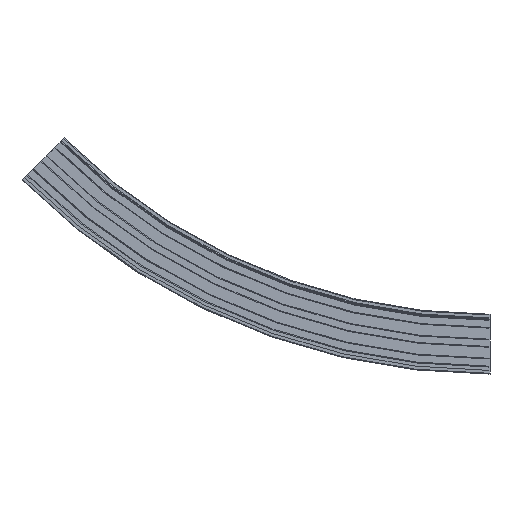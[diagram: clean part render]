
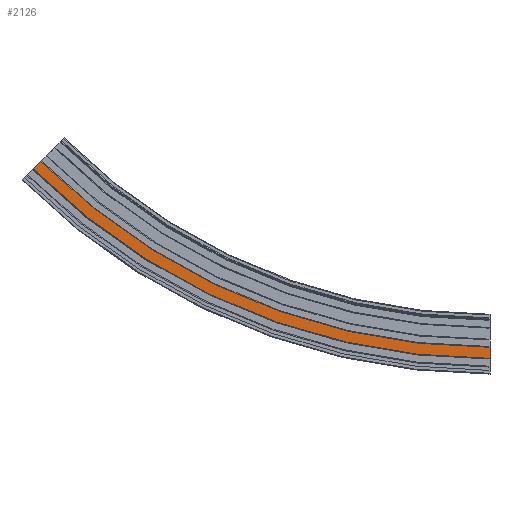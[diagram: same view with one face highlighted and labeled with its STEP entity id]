
A CAD part, left-side view. The second image highlights one B-rep face of the part: STEP entity #2126.
In plain terms, the highlighted planar face has unit normal (-1, 0, 0).
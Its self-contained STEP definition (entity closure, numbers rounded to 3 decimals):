
#214=CIRCLE('',#2314,865.5);
#215=CIRCLE('',#2316,880.5);
#325=FACE_OUTER_BOUND('',#443,.T.);
#443=EDGE_LOOP('',(#1725,#1726,#1727,#1728));
#593=LINE('',#8156,#771);
#594=LINE('',#8158,#772);
#771=VECTOR('',#2772,10.);
#772=VECTOR('',#2773,10.);
#983=VERTEX_POINT('',#8149);
#984=VERTEX_POINT('',#8151);
#985=VERTEX_POINT('',#8155);
#986=VERTEX_POINT('',#8157);
#1271=EDGE_CURVE('',#983,#984,#214,.T.);
#1272=EDGE_CURVE('',#985,#983,#593,.T.);
#1273=EDGE_CURVE('',#986,#984,#594,.T.);
#1274=EDGE_CURVE('',#985,#986,#215,.T.);
#1725=ORIENTED_EDGE('',*,*,#1272,.T.);
#1726=ORIENTED_EDGE('',*,*,#1271,.T.);
#1727=ORIENTED_EDGE('',*,*,#1273,.F.);
#1728=ORIENTED_EDGE('',*,*,#1274,.F.);
#2030=PLANE('',#2315);
#2126=ADVANCED_FACE('',(#325),#2030,.T.);
#2314=AXIS2_PLACEMENT_3D('',#8153,#2768,#2769);
#2315=AXIS2_PLACEMENT_3D('',#8154,#2770,#2771);
#2316=AXIS2_PLACEMENT_3D('',#8159,#2774,#2775);
#2768=DIRECTION('center_axis',(1.,0.,0.));
#2769=DIRECTION('ref_axis',(0.,0.,
-1.));
#2770=DIRECTION('center_axis',(-1.,0.,0.));
#2771=DIRECTION('ref_axis',(0.,0.,1.));
#2772=DIRECTION('',(0.,0.,1.));
#2773=DIRECTION('',(0.,-0.707,0.707));
#2774=DIRECTION('center_axis',(1.,0.,0.));
#2775=DIRECTION('ref_axis',(0.,0.,
-1.));
#8149=CARTESIAN_POINT('',(-112.,0.,-5.5));
#8151=CARTESIAN_POINT('',(-112.,612.001,247.999));
#8153=CARTESIAN_POINT('Origin',(-112.,0.,860.));
#8154=CARTESIAN_POINT('Origin',(-112.,0.,-20.5));
#8155=CARTESIAN_POINT('',(-112.,0.,-20.5));
#8156=CARTESIAN_POINT('',(-112.,0.,-20.5));
#8157=CARTESIAN_POINT('',(-112.,622.607,237.393));
#8158=CARTESIAN_POINT('',(-112.,622.607,237.393));
#8159=CARTESIAN_POINT('Origin',(-112.,0.,860.));
